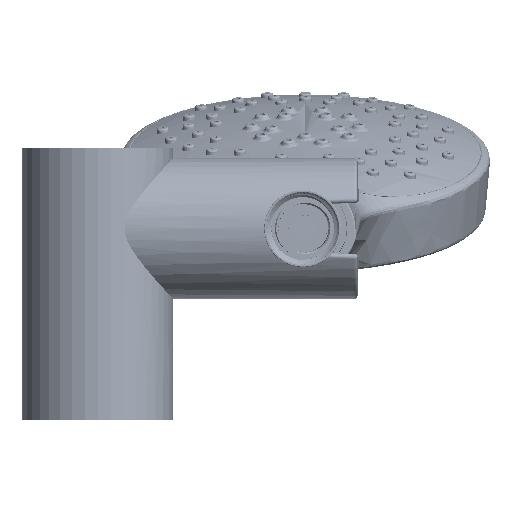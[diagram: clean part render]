
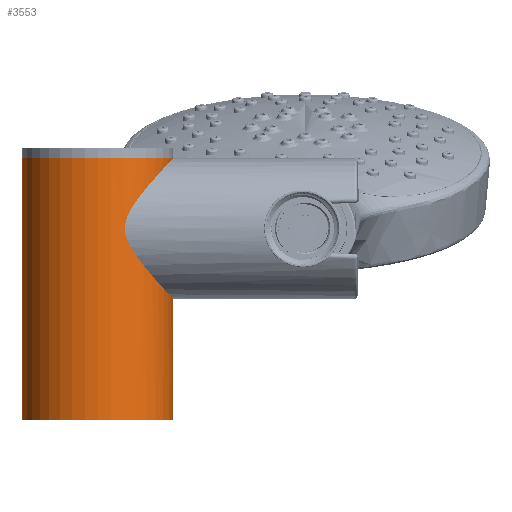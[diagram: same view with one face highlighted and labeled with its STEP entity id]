
A CAD part, front view. The second image highlights one B-rep face of the part: STEP entity #3553.
In plain terms, the highlighted cylindrical face has radius 22.5 mm (diameter 45 mm), a partial arc.
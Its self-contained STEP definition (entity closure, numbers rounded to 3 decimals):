
#2470=CARTESIAN_POINT('',(22.5,0.,38.));
#2471=CARTESIAN_POINT('',(22.5,-0.443,38.));
#2472=CARTESIAN_POINT('',(22.474,-1.331,38.028));
#2473=CARTESIAN_POINT('',(22.356,-2.661,38.155));
#2474=CARTESIAN_POINT('',(22.156,-3.996,38.369));
#2475=CARTESIAN_POINT('',(21.874,-5.331,38.672));
#2476=CARTESIAN_POINT('',(21.504,-6.67,39.071));
#2477=CARTESIAN_POINT('',(21.044,-8.006,39.568));
#2478=CARTESIAN_POINT('',(20.487,-9.342,40.173));
#2479=CARTESIAN_POINT('',(19.83,-10.667,40.889));
#2480=CARTESIAN_POINT('',(19.066,-11.979,41.728));
#2481=CARTESIAN_POINT('',(18.194,-13.268,42.695));
#2482=CARTESIAN_POINT('',(17.21,-14.523,43.8));
#2483=CARTESIAN_POINT('',(16.124,-15.721,45.04));
#2484=CARTESIAN_POINT('',(14.933,-16.857,46.432));
#2485=CARTESIAN_POINT('',(13.667,-17.897,47.963));
#2486=CARTESIAN_POINT('',(12.455,-18.755,49.503));
#2487=CARTESIAN_POINT('',(11.395,-19.412,50.943));
#2488=CARTESIAN_POINT('',(10.512,-19.9,52.249));
#2489=CARTESIAN_POINT('',(9.778,-20.269,53.462));
#2490=CARTESIAN_POINT('',(9.194,-20.539,54.577));
#2491=CARTESIAN_POINT('',(8.748,-20.731,55.602));
#2492=CARTESIAN_POINT('',(8.43,-20.862,56.538));
#2493=CARTESIAN_POINT('',(8.22,-20.945,57.404));
#2494=CARTESIAN_POINT('',(8.103,-20.99,58.214));
#2495=CARTESIAN_POINT('',(8.078,-21.,58.741));
#2496=CARTESIAN_POINT('',(8.078,-21.,59.));
#2498=DIRECTION('',(0.,0.,1.));
#2499=VECTOR('',#2498,36.);
#2500=CARTESIAN_POINT('',(22.5,0.,2.));
#2501=LINE('',#2500,#2499);
#2502=DIRECTION('',(0.,0.,-1.));
#2503=VECTOR('',#2502,78.);
#2504=CARTESIAN_POINT('',(-22.5,0.,80.));
#2505=LINE('',#2504,#2503);
#2561=CARTESIAN_POINT('',(0.,0.,2.));
#2562=DIRECTION('',(0.,0.,1.));
#2563=DIRECTION('',(-1.,0.,0.));
#2564=AXIS2_PLACEMENT_3D('',#2561,#2562,#2563);
#2579=CARTESIAN_POINT('',(0.,0.,80.));
#2580=DIRECTION('',(0.,0.,-1.));
#2581=DIRECTION('',(1.,0.,0.));
#2582=AXIS2_PLACEMENT_3D('',#2579,#2580,#2581);
#2630=CARTESIAN_POINT('',(8.078,-21.,59.));
#2631=CARTESIAN_POINT('',(8.078,-21.,59.258));
#2632=CARTESIAN_POINT('',(8.103,-20.99,59.786));
#2633=CARTESIAN_POINT('',(8.22,-20.945,60.595));
#2634=CARTESIAN_POINT('',(8.429,-20.862,61.46));
#2635=CARTESIAN_POINT('',(8.747,-20.732,62.396));
#2636=CARTESIAN_POINT('',(9.192,-20.539,63.421));
#2637=CARTESIAN_POINT('',(9.777,-20.269,64.537));
#2638=CARTESIAN_POINT('',(10.512,-19.9,65.75));
#2639=CARTESIAN_POINT('',(11.395,-19.412,67.056));
#2640=CARTESIAN_POINT('',(12.461,-18.751,68.505));
#2641=CARTESIAN_POINT('',(13.682,-17.886,70.056));
#2642=CARTESIAN_POINT('',(14.954,-16.839,71.593));
#2643=CARTESIAN_POINT('',(16.137,-15.707,72.975));
#2644=CARTESIAN_POINT('',(17.221,-14.51,74.213));
#2645=CARTESIAN_POINT('',(18.204,-13.255,75.315));
#2646=CARTESIAN_POINT('',(19.074,-11.968,76.28));
#2647=CARTESIAN_POINT('',(19.835,-10.657,77.116));
#2648=CARTESIAN_POINT('',(20.491,-9.332,77.832));
#2649=CARTESIAN_POINT('',(21.046,-7.999,78.435));
#2650=CARTESIAN_POINT('',(21.506,-6.663,78.931));
#2651=CARTESIAN_POINT('',(21.875,-5.326,79.329));
#2652=CARTESIAN_POINT('',(22.157,-3.992,79.632));
#2653=CARTESIAN_POINT('',(22.356,-2.659,79.845));
#2654=CARTESIAN_POINT('',(22.474,-1.329,79.972));
#2655=CARTESIAN_POINT('',(22.5,-0.442,80.));
#2656=CARTESIAN_POINT('',(22.5,0.,80.));
#3196=CARTESIAN_POINT('',(-22.5,0.,80.));
#3197=CARTESIAN_POINT('',(-22.5,0.,2.));
#3198=VERTEX_POINT('',#3196);
#3199=VERTEX_POINT('',#3197);
#3200=VERTEX_POINT('',#2630);
#3201=VERTEX_POINT('',#2656);
#3202=VERTEX_POINT('',#2470);
#3241=CARTESIAN_POINT('',(22.5,0.,2.));
#3242=VERTEX_POINT('',#3241);
#3539=CARTESIAN_POINT('',(0.,0.,0.44));
#3540=DIRECTION('',(0.,0.,1.));
#3541=DIRECTION('',(1.,0.,0.));
#3542=AXIS2_PLACEMENT_3D('',#3539,#3540,#3541);
#3543=CYLINDRICAL_SURFACE('',#3542,22.5);
#3544=ORIENTED_EDGE('',*,*,#3461,.F.);
#3545=ORIENTED_EDGE('',*,*,#3450,.F.);
#3546=ORIENTED_EDGE('',*,*,#3530,.F.);
#3548=ORIENTED_EDGE('',*,*,#3547,.F.);
#3549=ORIENTED_EDGE('',*,*,#3426,.F.);
#3550=ORIENTED_EDGE('',*,*,#3443,.F.);
#3551=EDGE_LOOP('',(#3544,#3545,#3546,#3548,#3549,#3550));
#3552=FACE_OUTER_BOUND('',#3551,.F.);
#3553=ADVANCED_FACE('',(#3552),#3543,.T.);
#2497=B_SPLINE_CURVE_WITH_KNOTS('',3,(#2470,#2471,#2472,#2473,#2474,#2475,#2476,
#2477,#2478,#2479,#2480,#2481,#2482,#2483,#2484,#2485,#2486,#2487,#2488,#2489,
#2490,#2491,#2492,#2493,#2494,#2495,#2496),.UNSPECIFIED.,.F.,.F.,(4,1,1,1,1,1,1,
1,1,1,1,1,1,1,1,1,1,1,1,1,1,1,1,1,4),(0.,0.042,0.083,
0.125,0.167,0.208,0.25,0.292,
0.333,0.375,0.417,0.458,0.5,
0.542,0.583,0.625,0.667,0.708,
0.75,0.792,0.833,0.875,0.917,
0.958,1.),.UNSPECIFIED.);
#2565=CIRCLE('',#2564,22.5);
#2583=CIRCLE('',#2582,22.5);
#2657=B_SPLINE_CURVE_WITH_KNOTS('',3,(#2630,#2631,#2632,#2633,#2634,#2635,#2636,
#2637,#2638,#2639,#2640,#2641,#2642,#2643,#2644,#2645,#2646,#2647,#2648,#2649,
#2650,#2651,#2652,#2653,#2654,#2655,#2656),.UNSPECIFIED.,.F.,.F.,(4,1,1,1,1,1,1,
1,1,1,1,1,1,1,1,1,1,1,1,1,1,1,1,1,4),(0.,0.042,0.083,
0.125,0.167,0.208,0.25,0.292,
0.333,0.375,0.417,0.458,0.5,
0.542,0.583,0.625,0.667,0.708,
0.75,0.792,0.833,0.875,0.917,
0.958,1.),.UNSPECIFIED.);
#3426=EDGE_CURVE('',#3202,#3200,#2497,.T.);
#3443=EDGE_CURVE('',#3242,#3202,#2501,.T.);
#3450=EDGE_CURVE('',#3198,#3199,#2505,.T.);
#3461=EDGE_CURVE('',#3199,#3242,#2565,.T.);
#3530=EDGE_CURVE('',#3201,#3198,#2583,.T.);
#3547=EDGE_CURVE('',#3200,#3201,#2657,.T.);
